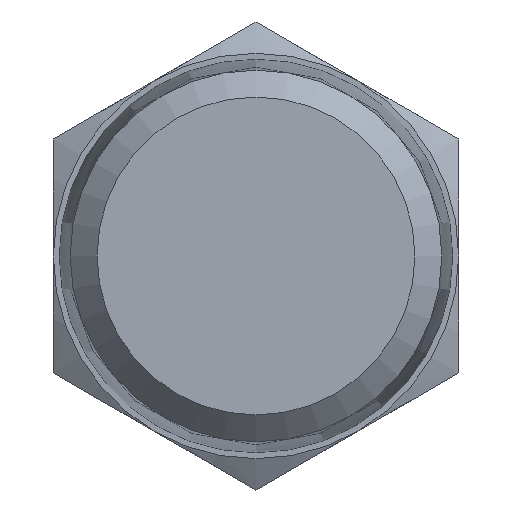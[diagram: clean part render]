
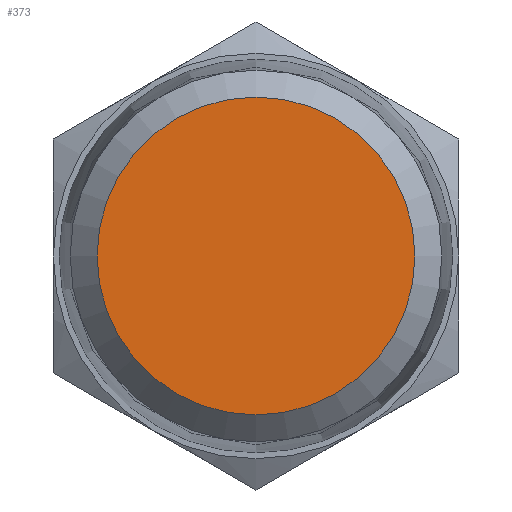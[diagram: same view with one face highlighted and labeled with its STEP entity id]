
A CAD part, left-side view. The second image highlights one B-rep face of the part: STEP entity #373.
In plain terms, the highlighted planar face has unit normal (-1, 0, 0).
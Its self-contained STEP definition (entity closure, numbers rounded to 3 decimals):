
#52=PLANE($,#409);
#75=FACE_OUTER_BOUND($,#106,.T.);
#106=EDGE_LOOP($,(#254));
#142=CIRCLE($,#405,5.491);
#164=VERTEX_POINT($,#570);
#198=EDGE_CURVE($,#164,#164,#142,.T.);
#254=ORIENTED_EDGE($,*,*,#198,.F.);
#373=ADVANCED_FACE($,(#75),#52,.F.);
#405=AXIS2_PLACEMENT_3D($,#571,#460,#461);
#409=AXIS2_PLACEMENT_3D($,#577,#468,#469);
#460=DIRECTION('center_axis',(1.,0.,0.));
#461=DIRECTION('ref_axis',(0.,0.,-1.));
#468=DIRECTION('center_axis',(1.,0.,0.));
#469=DIRECTION('ref_axis',(0.,0.,-1.));
#570=CARTESIAN_POINT('',(-21.,0.,5.491));
#571=CARTESIAN_POINT('Origin',(-21.,0.,0.));
#577=CARTESIAN_POINT('Origin',(-21.,0.,0.));
